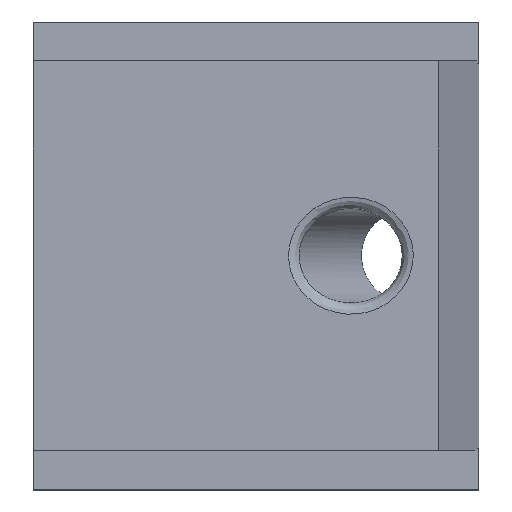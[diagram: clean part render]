
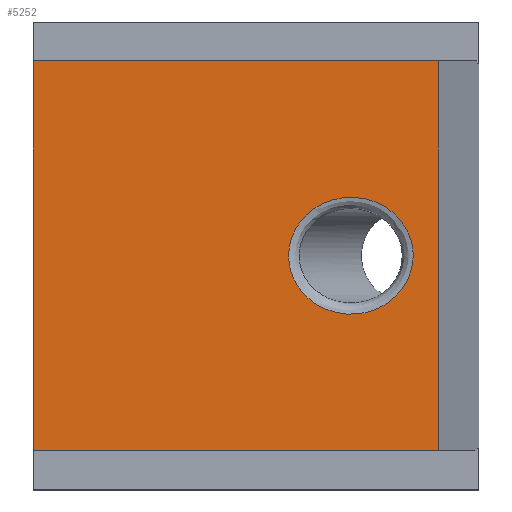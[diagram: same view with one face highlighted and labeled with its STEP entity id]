
A CAD part, top view. The second image highlights one B-rep face of the part: STEP entity #5252.
In plain terms, the highlighted planar face has unit normal (0, 0, 1).
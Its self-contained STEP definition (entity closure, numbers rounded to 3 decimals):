
#229 = DIRECTION ( 'NONE',  ( -1., 0., 0. ) ) ;
#284 = PLANE ( 'NONE',  #2793 ) ;
#456 = VERTEX_POINT ( 'NONE', #5716 ) ;
#1074 = ORIENTED_EDGE ( 'NONE', *, *, #7236, .T. ) ;
#1130 = DIRECTION ( 'NONE',  ( 1., 0., 0. ) ) ;
#1177 = FACE_BOUND ( 'NONE', #7667, .T. ) ;
#1350 = VECTOR ( 'NONE', #8388, 1000. ) ;
#1382 = LINE ( 'NONE', #1501, #4608 ) ;
#1501 = CARTESIAN_POINT ( 'NONE',  ( 0., 17.5, 16. ) ) ;
#1730 = VERTEX_POINT ( 'NONE', #8851 ) ;
#1986 = CARTESIAN_POINT ( 'NONE',  ( 36.36, -17.5, 16. ) ) ;
#2146 = ORIENTED_EDGE ( 'NONE', *, *, #4993, .T. ) ;
#2252 = EDGE_CURVE ( 'NONE', #1730, #456, #1382, .T. ) ;
#2401 = DIRECTION ( 'NONE',  ( 0., -1., 0. ) ) ;
#2555 = CARTESIAN_POINT ( 'NONE',  ( 36.36, 17.5, 16. ) ) ;
#2614 = EDGE_LOOP ( 'NONE', ( #2146, #5105, #8203, #9458 ) ) ;
#2714 = CARTESIAN_POINT ( 'NONE',  ( 22.937, 0., 16. ) ) ;
#2793 = AXIS2_PLACEMENT_3D ( 'NONE', #2928, #2985, #229 ) ;
#2858 = LINE ( 'NONE', #8870, #5126 ) ;
#2928 = CARTESIAN_POINT ( 'NONE',  ( 0., 17.5, 16. ) ) ;
#2985 = DIRECTION ( 'NONE',  ( 0., 0., -1. ) ) ;
#2990 = CARTESIAN_POINT ( 'NONE',  ( 34.111, 10.5, 16. ) ) ;
#3556 = CARTESIAN_POINT ( 'NONE',  ( 22.937, -10.5, 16. ) ) ;
#3608 = FACE_OUTER_BOUND ( 'NONE', #2614, .T. ) ;
#3651 = CARTESIAN_POINT ( 'NONE',  ( 34.111, 0., 16. ) ) ;
#4179 = CARTESIAN_POINT ( 'NONE',  ( 0., -17.5, 16. ) ) ;
#4308 = VERTEX_POINT ( 'NONE', #2555 ) ;
#4388 = VERTEX_POINT ( 'NONE', #3651 ) ;
#4608 = VECTOR ( 'NONE', #2401, 1000. ) ;
#4993 = EDGE_CURVE ( 'NONE', #456, #10668, #10911, .T. ) ;
#5105 = ORIENTED_EDGE ( 'NONE', *, *, #9528, .F. ) ;
#5126 = VECTOR ( 'NONE', #5331, 1000. ) ;
#5252 = ADVANCED_FACE ( 'NONE', ( #1177, #3608 ), #284, .F. ) ;
#5331 = DIRECTION ( 'NONE',  ( 0., -1., 0. ) ) ;
#5461 = CARTESIAN_POINT ( 'NONE',  ( 0., 17.5, 16. ) ) ;
#5716 = CARTESIAN_POINT ( 'NONE',  ( 0., -17.5, 16. ) ) ;
#6330 =( BOUNDED_CURVE ( )  B_SPLINE_CURVE ( 3, ( #7152, #7828, #3556, #2714, #7262, #2990, #9944 ),
 .UNSPECIFIED., .T., .T. ) 
 B_SPLINE_CURVE_WITH_KNOTS ( ( 4, 3, 4 ),
 ( 0., 3.142, 6.283 ),
 .UNSPECIFIED. ) 
 CURVE ( )  GEOMETRIC_REPRESENTATION_ITEM ( )  RATIONAL_B_SPLINE_CURVE ( ( 1., 0.333, 0.333, 1., 0.333, 0.333, 1. ) ) 
 REPRESENTATION_ITEM ( '' )  );
#7152 = CARTESIAN_POINT ( 'NONE',  ( 34.111, 0., 16. ) ) ;
#7236 = EDGE_CURVE ( 'NONE', #4388, #4388, #6330, .T. ) ;
#7262 = CARTESIAN_POINT ( 'NONE',  ( 22.937, 10.5, 16. ) ) ;
#7667 = EDGE_LOOP ( 'NONE', ( #1074 ) ) ;
#7804 = EDGE_CURVE ( 'NONE', #1730, #4308, #9619, .T. ) ;
#7828 = CARTESIAN_POINT ( 'NONE',  ( 34.111, -10.5, 16. ) ) ;
#8203 = ORIENTED_EDGE ( 'NONE', *, *, #7804, .F. ) ;
#8388 = DIRECTION ( 'NONE',  ( 1., 0., 0. ) ) ;
#8851 = CARTESIAN_POINT ( 'NONE',  ( 0., 17.5, 16. ) ) ;
#8870 = CARTESIAN_POINT ( 'NONE',  ( 36.36, 17.5, 16. ) ) ;
#9458 = ORIENTED_EDGE ( 'NONE', *, *, #2252, .T. ) ;
#9528 = EDGE_CURVE ( 'NONE', #4308, #10668, #2858, .T. ) ;
#9619 = LINE ( 'NONE', #5461, #10383 ) ;
#9944 = CARTESIAN_POINT ( 'NONE',  ( 34.111, 0., 16. ) ) ;
#10383 = VECTOR ( 'NONE', #1130, 1000. ) ;
#10668 = VERTEX_POINT ( 'NONE', #1986 ) ;
#10911 = LINE ( 'NONE', #4179, #1350 ) ;
